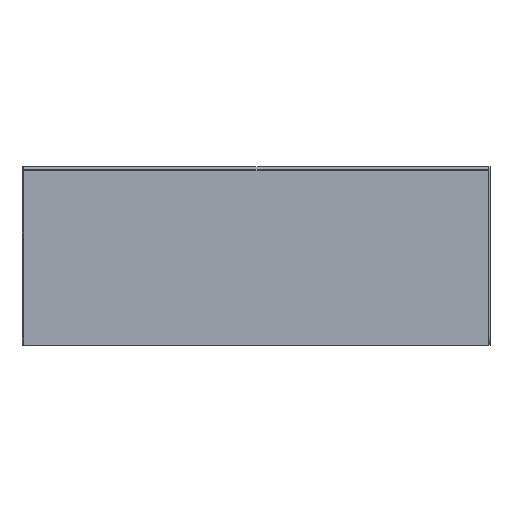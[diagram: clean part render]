
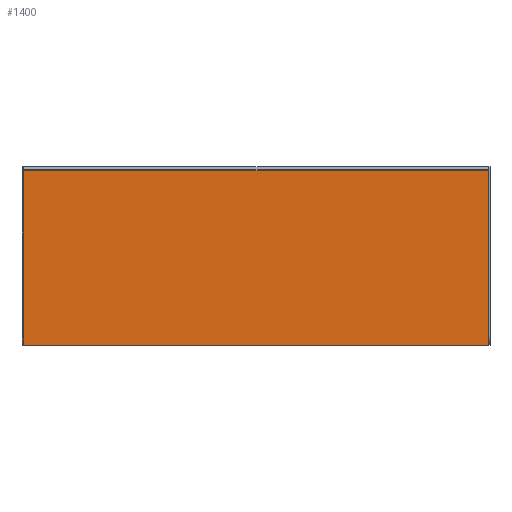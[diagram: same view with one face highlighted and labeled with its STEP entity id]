
A CAD part, front view. The second image highlights one B-rep face of the part: STEP entity #1400.
In plain terms, the highlighted planar face has unit normal (0, -1, 0).
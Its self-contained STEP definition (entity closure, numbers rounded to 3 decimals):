
#54 = DIRECTION ( 'NONE',  ( 0., 0., 1. ) ) ;
#70 = CARTESIAN_POINT ( 'NONE',  ( -647., -17.5, 247. ) ) ;
#124 = DIRECTION ( 'NONE',  ( 1., 0., 0. ) ) ;
#158 = VECTOR ( 'NONE', #393, 1000. ) ;
#182 = CARTESIAN_POINT ( 'NONE',  ( -647., -17.5, 247. ) ) ;
#210 = CARTESIAN_POINT ( 'NONE',  ( 647., -17.5, -247. ) ) ;
#247 = ORIENTED_EDGE ( 'NONE', *, *, #669, .F. ) ;
#248 = CARTESIAN_POINT ( 'NONE',  ( -647., -17.5, 247. ) ) ;
#393 = DIRECTION ( 'NONE',  ( 0., 0., -1. ) ) ;
#470 = LINE ( 'NONE', #182, #1177 ) ;
#506 = DIRECTION ( 'NONE',  ( -1., 0., 0. ) ) ;
#515 = LINE ( 'NONE', #1547, #1190 ) ;
#629 = CARTESIAN_POINT ( 'NONE',  ( 647., -17.5, 247. ) ) ;
#669 = EDGE_CURVE ( 'NONE', #713, #1110, #470, .T. ) ;
#691 = VERTEX_POINT ( 'NONE', #210 ) ;
#713 = VERTEX_POINT ( 'NONE', #772 ) ;
#772 = CARTESIAN_POINT ( 'NONE',  ( -647., -17.5, -247. ) ) ;
#779 = EDGE_CURVE ( 'NONE', #1110, #1055, #1172, .T. ) ;
#853 = AXIS2_PLACEMENT_3D ( 'NONE', #1040, #1542, #1394 ) ;
#1040 = CARTESIAN_POINT ( 'NONE',  ( 0., -17.5, 0. ) ) ;
#1055 = VERTEX_POINT ( 'NONE', #1450 ) ;
#1110 = VERTEX_POINT ( 'NONE', #70 ) ;
#1134 = FACE_OUTER_BOUND ( 'NONE', #1171, .T. ) ;
#1171 = EDGE_LOOP ( 'NONE', ( #1617, #1424, #247, #1362 ) ) ;
#1172 = LINE ( 'NONE', #248, #1481 ) ;
#1177 = VECTOR ( 'NONE', #54, 1000. ) ;
#1190 = VECTOR ( 'NONE', #506, 1000. ) ;
#1362 = ORIENTED_EDGE ( 'NONE', *, *, #1634, .F. ) ;
#1394 = DIRECTION ( 'NONE',  ( 0., 0., -1. ) ) ;
#1400 = ADVANCED_FACE ( 'NONE', ( #1134 ), #1423, .T. ) ;
#1423 = PLANE ( 'NONE',  #853 ) ;
#1424 = ORIENTED_EDGE ( 'NONE', *, *, #779, .F. ) ;
#1450 = CARTESIAN_POINT ( 'NONE',  ( 647., -17.5, 247. ) ) ;
#1481 = VECTOR ( 'NONE', #124, 1000. ) ;
#1542 = DIRECTION ( 'NONE',  ( 0., -1., 0. ) ) ;
#1547 = CARTESIAN_POINT ( 'NONE',  ( -647., -17.5, -247. ) ) ;
#1567 = LINE ( 'NONE', #629, #158 ) ;
#1617 = ORIENTED_EDGE ( 'NONE', *, *, #1702, .F. ) ;
#1634 = EDGE_CURVE ( 'NONE', #691, #713, #515, .T. ) ;
#1702 = EDGE_CURVE ( 'NONE', #1055, #691, #1567, .T. ) ;
